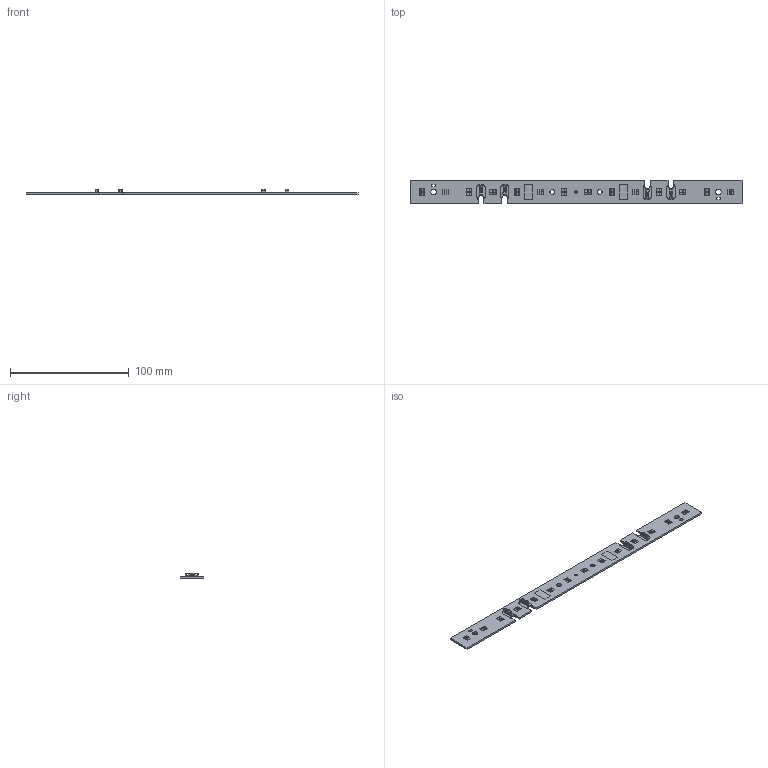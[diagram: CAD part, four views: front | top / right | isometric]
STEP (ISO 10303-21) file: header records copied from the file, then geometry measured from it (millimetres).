
FILE_DESCRIPTION(('CATIA V5 STEP Exchange'),'2;1');
FILE_NAME('C:\Users\jouko.kotitalo\Desktop\pdf_exports\DAISY-MINI-14X1_2_LED_REFERENCE-PCB_002.stp','2019-06-25T10:49:00+00:00',('none'),('none'),'CATIA Version 5-6 Release 2018 SP4','CATIA V5 STEP AP203','none');
FILE_SCHEMA(('CONFIG_CONTROL_DESIGN'));
Products named in the file (1): DAISY-MINI_PCB_DRAWING_2_LED
Bounding box: 279.65 x 20 x 4.7 mm (x, y, z)
Volume: 8712.3 mm3; surface area: 12947.9 mm2
Topology: 61 solids, 61 shells, 2642 faces, 7166 edges, 4652 vertices
Faces by surface type: plane 1904, cylinder 534, cone 88, torus 84, extrusion 16, bspline 16
Entity records: 80365 total; most frequent: CARTESIAN_POINT 18843, ORIENTED_EDGE 14332, DIRECTION 10026, EDGE_CURVE 7166, VECTOR 5714, LINE 5698, VERTEX_POINT 4652, EDGE_LOOP 2670
